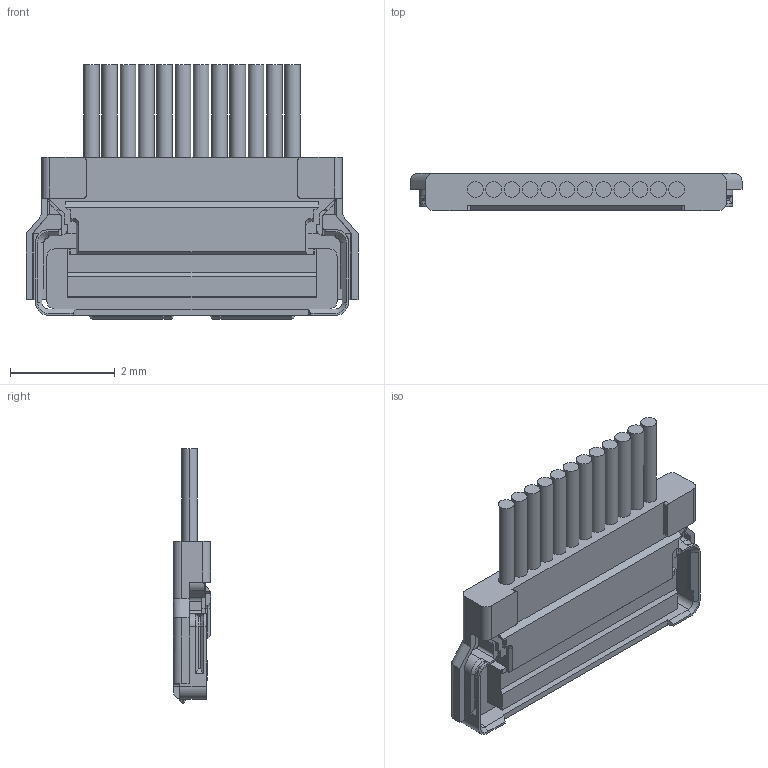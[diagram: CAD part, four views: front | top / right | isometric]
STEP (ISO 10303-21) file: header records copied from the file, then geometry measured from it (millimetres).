
FILE_DESCRIPTION (( 'STEP AP203' ), '1' );
FILE_NAME ('21117-012T-01C PLUG CABLE ASSEMBLY STEP R7R3 Goertek.STEP', '2025-06-26T06:32:57', ( '' ), ( '' ), 'SwSTEP 2.0', 'SolidWorks 2023', '' );
FILE_SCHEMA (( 'CONFIG_CONTROL_DESIGN' ));
Length unit declared in the file: millimetre
Products named in the file (1): 21117-012T-01C PLUG CABLE ASSEMBLY STEP R7R3 Goertek
Bounding box: 6.35 x 0.71 x 4.88 mm (x, y, z)
Volume: 11.6 mm3; surface area: 78.5 mm2
Topology: 1 solids, 1 shells, 315 faces, 859 edges, 550 vertices
Faces by surface type: plane 196, cylinder 97, cone 12, bspline 6, torus 4
Entity records: 10331 total; most frequent: CARTESIAN_POINT 2254, ORIENTED_EDGE 1718, DIRECTION 1619, EDGE_CURVE 859, VECTOR 635, LINE 635, VERTEX_POINT 550, AXIS2_PLACEMENT_3D 492
